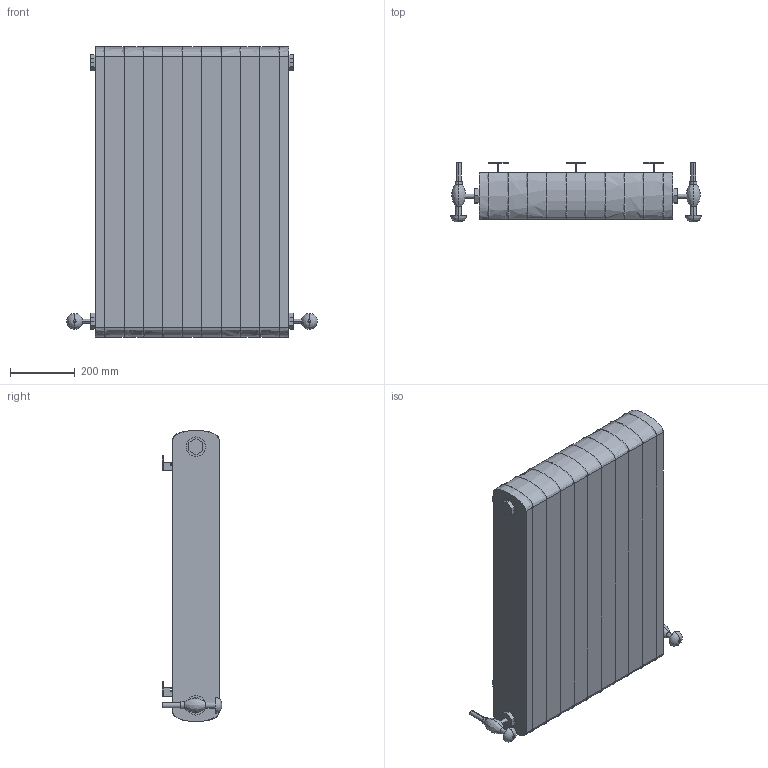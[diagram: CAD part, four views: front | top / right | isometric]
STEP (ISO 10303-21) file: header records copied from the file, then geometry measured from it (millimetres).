
FILE_DESCRIPTION(/* description */ (''),/* implementation_level */ '2;1');
FILE_NAME(/* name */ 'Ionic_4Column_WallMounted',/* time_stamp */ '2026-08-04T19:14:56+03:00',/* author */ (''),/* organization */ (''),/* preprocessor_version */ 'ST-DEVELOPER v20',/* originating_system */ '',/* authorisation */ '');
FILE_SCHEMA (('AP242_MANAGED_MODEL_BASED_3D_ENGINEERING_MIM_LF { 1 0 10303 442 1 1 4 }'));
Length unit declared in the file: millimetre
Products named in the file (10): TopLevelAssembly; Выдавливание; Выдавливание_
1; Выдавливание_
2; Выдавливание_
3; Выдавливание_
4; MHS_Chartwell_Valve_Wall; MHS_Chartwell_Valve_Wall_1; MHS_Ionic_4_6; IonicBracket
Assembly tree (27 placements, depth 2):
  TopLevelAssembly
    Выдавливание
    Выдавливание_
1
    Выдавливание_
2
    Выдавливание_
3
    MHS_Ionic_4_6  x10
    Выдавливание_
4
    IonicBracket  x10
    MHS_Chartwell_Valve_Wall
    MHS_Chartwell_Valve_Wall_1
Bounding box: 774.75 x 184 x 900 mm (x, y, z)
Volume: 103059606.3 mm3; surface area: 6648646.8 mm2
Topology: 99 solids, 99 shells, 1420 faces, 3154 edges, 1972 vertices
Faces by surface type: plane 774, bspline 390, cylinder 176, cone 80
Entity records: 14459 total; most frequent: CARTESIAN_POINT 9203, DIRECTION 975, ORIENTED_EDGE 962, EDGE_CURVE 481, LINE 327, VECTOR 327, AXIS2_PLACEMENT_3D 324, VERTEX_POINT 298
